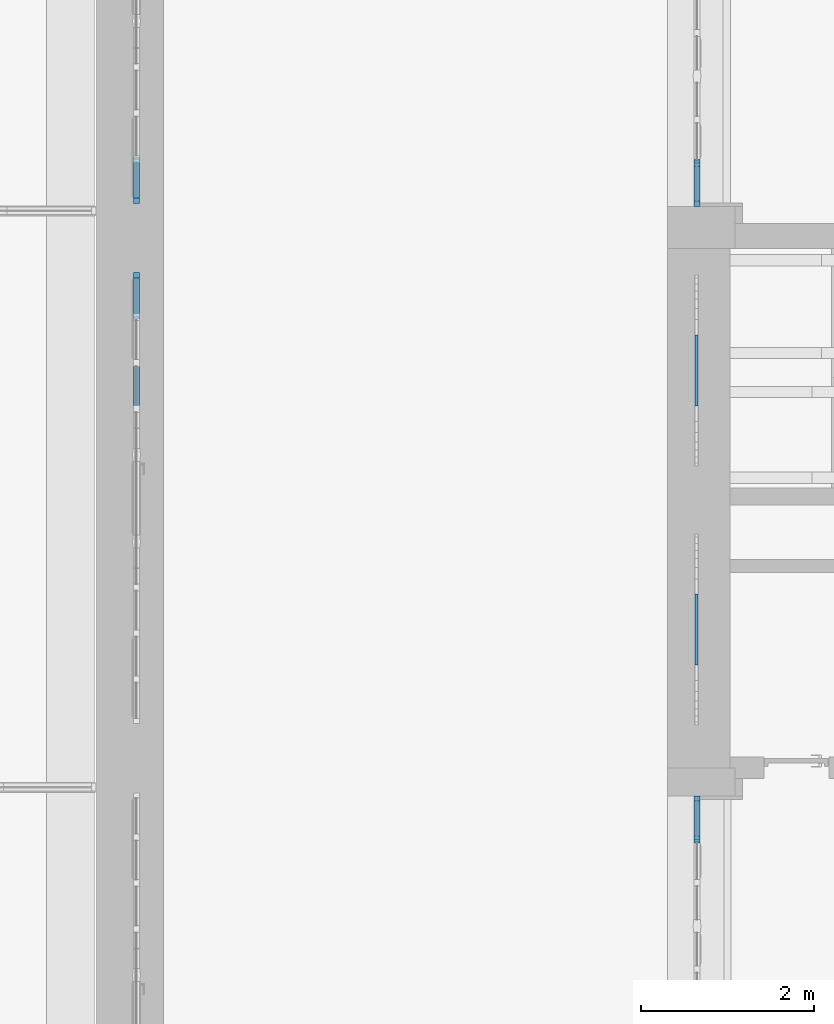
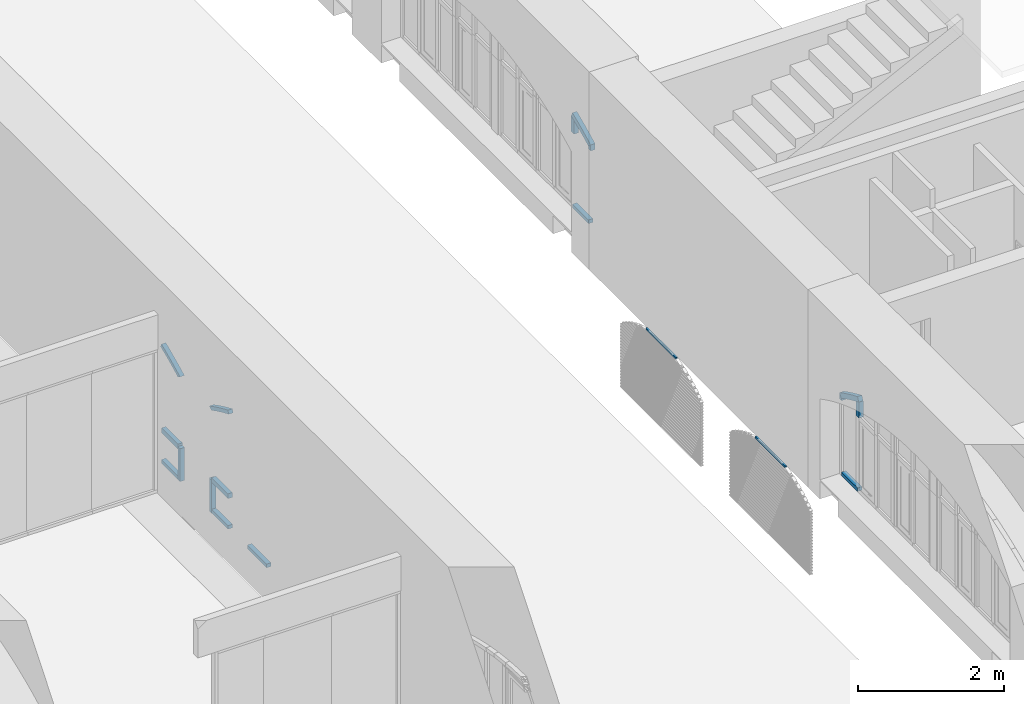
# One storey, part 33 of 88: 19 members, 6 elements without a shape of their own.
"""IFC2X3 building model written with IfcOpenShell, lengths in millimetres."""

from ifc_helpers import new_model, entity, si_unit, converted_unit, derived_unit, direction, frame, frame_2d, origin, origin_2d_with_axis, place, context, subcontext, project, spatial, polyline, circle_curve, parameter, trimmed, segment, composite_curve, rectangle, outline, extrude, source, transform, mapped, material, type_object, type_shapes, element, aggregate, save


model = new_model("IFC2X3")

# Units and contexts
model_context = context("Model", 3, precision=0.01, world=origin(), true_north=direction((6.123031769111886e-17, 1.0)))
body_context = subcontext(model_context, "Body", "Model", "MODEL_VIEW")
ifc_project = project(units=[si_unit("LENGTHUNIT", "METRE", prefix="MILLI"), si_unit("AREAUNIT", "SQUARE_METRE"), si_unit("VOLUMEUNIT", "CUBIC_METRE"), converted_unit("PLANEANGLEUNIT", "DEGREE", entity("IfcPlaneAngleMeasure", 0.017453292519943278), si_unit("PLANEANGLEUNIT", "RADIAN"), dimensions=[0, 0, 0, 0, 0, 0, 0]), si_unit("MASSUNIT", "GRAM", prefix="KILO"), derived_unit("MASSDENSITYUNIT", [(si_unit("MASSUNIT", "GRAM", prefix="KILO"), 1), (si_unit("LENGTHUNIT", "METRE"), -3)]), derived_unit("IONCONCENTRATIONUNIT", [(si_unit("MASSUNIT", "GRAM", prefix="KILO"), 1), (si_unit("LENGTHUNIT", "METRE"), -3)]), derived_unit("MOMENTOFINERTIAUNIT", [(si_unit("LENGTHUNIT", "METRE"), 4)]), si_unit("TIMEUNIT", "SECOND"), si_unit("FREQUENCYUNIT", "HERTZ"), si_unit("THERMODYNAMICTEMPERATUREUNIT", "DEGREE_CELSIUS"), derived_unit("THERMALTRANSMITTANCEUNIT", [(si_unit("MASSUNIT", "GRAM", prefix="KILO"), 1), (si_unit("THERMODYNAMICTEMPERATUREUNIT", "KELVIN"), -1), (si_unit("TIMEUNIT", "SECOND"), -3)]), derived_unit("THERMALCONDUCTANCEUNIT", [(si_unit("MASSUNIT", "GRAM", prefix="KILO"), 1), (si_unit("THERMODYNAMICTEMPERATUREUNIT", "KELVIN"), -1), (si_unit("TIMEUNIT", "SECOND"), -3), (si_unit("LENGTHUNIT", "METRE"), 1)]), derived_unit("VOLUMETRICFLOWRATEUNIT", [(si_unit("LENGTHUNIT", "METRE", prefix="DECI"), 3), (si_unit("TIMEUNIT", "SECOND"), -1)]), derived_unit("MASSFLOWRATEUNIT", [(si_unit("MASSUNIT", "GRAM", prefix="KILO"), 1), (si_unit("TIMEUNIT", "SECOND"), -1)]), derived_unit("ROTATIONALFREQUENCYUNIT", [(si_unit("TIMEUNIT", "SECOND"), -1)]), si_unit("ELECTRICCURRENTUNIT", "AMPERE"), si_unit("ELECTRICVOLTAGEUNIT", "VOLT"), si_unit("POWERUNIT", "WATT"), si_unit("FORCEUNIT", "NEWTON", prefix="KILO"), si_unit("ILLUMINANCEUNIT", "LUX"), si_unit("LUMINOUSFLUXUNIT", "LUMEN"), si_unit("LUMINOUSINTENSITYUNIT", "CANDELA"), si_unit("ENERGYUNIT", "JOULE"), derived_unit("USERDEFINED", [(si_unit("MASSUNIT", "GRAM", prefix="KILO"), -1), (si_unit("LENGTHUNIT", "METRE"), -2), (si_unit("TIMEUNIT", "SECOND"), 3), (si_unit("LUMINOUSFLUXUNIT", "LUMEN"), 1)]), derived_unit("USERDEFINED", [(si_unit("MASSUNIT", "GRAM", prefix="KILO"), 1), (si_unit("TIMEUNIT", "SECOND"), -3), (si_unit("LENGTHUNIT", "METRE"), 3), (si_unit("ELECTRICCURRENTUNIT", "AMPERE"), -2)]), derived_unit("SOUNDPOWERUNIT", [(si_unit("MASSUNIT", "GRAM", prefix="KILO"), 1), (si_unit("TIMEUNIT", "SECOND"), -3), (si_unit("LENGTHUNIT", "METRE"), 2)]), derived_unit("SOUNDPRESSUREUNIT", [(si_unit("MASSUNIT", "GRAM", prefix="KILO"), 1), (si_unit("LENGTHUNIT", "METRE"), -1), (si_unit("TIMEUNIT", "SECOND"), -2)]), derived_unit("LINEARVELOCITYUNIT", [(si_unit("LENGTHUNIT", "METRE"), 1), (si_unit("TIMEUNIT", "SECOND"), -1)]), si_unit("PRESSUREUNIT", "PASCAL"), derived_unit("USERDEFINED", [(si_unit("MASSUNIT", "GRAM", prefix="KILO"), 1), (si_unit("LENGTHUNIT", "METRE"), -2), (si_unit("TIMEUNIT", "SECOND"), -2)]), derived_unit("LINEARFORCEUNIT", [(si_unit("MASSUNIT", "GRAM", prefix="KILO"), 1), (si_unit("TIMEUNIT", "SECOND"), -2)]), derived_unit("PLANARFORCEUNIT", [(si_unit("MASSUNIT", "GRAM", prefix="KILO"), 1), (si_unit("LENGTHUNIT", "METRE"), -1), (si_unit("TIMEUNIT", "SECOND"), -2)]), derived_unit("SPECIFICHEATCAPACITYUNIT", [(si_unit("THERMODYNAMICTEMPERATUREUNIT", "KELVIN"), -1), (si_unit("LENGTHUNIT", "METRE"), 2), (si_unit("TIMEUNIT", "SECOND"), -2)]), derived_unit("HEATFLUXDENSITYUNIT", [(si_unit("MASSUNIT", "GRAM", prefix="KILO"), 1), (si_unit("TIMEUNIT", "SECOND"), -3)]), derived_unit("HEATINGVALUEUNIT", [(si_unit("LENGTHUNIT", "METRE"), 2), (si_unit("TIMEUNIT", "SECOND"), -2)]), derived_unit("VAPORPERMEABILITYUNIT", [(si_unit("LENGTHUNIT", "METRE"), -1), (si_unit("TIMEUNIT", "SECOND"), 1)]), derived_unit("DYNAMICVISCOSITYUNIT", [(si_unit("MASSUNIT", "GRAM", prefix="KILO"), 1), (si_unit("TIMEUNIT", "SECOND"), -1), (si_unit("LENGTHUNIT", "METRE"), -1)]), derived_unit("THERMALEXPANSIONCOEFFICIENTUNIT", [(si_unit("THERMODYNAMICTEMPERATUREUNIT", "KELVIN"), -1)]), derived_unit("MODULUSOFELASTICITYUNIT", [(si_unit("MASSUNIT", "GRAM", prefix="KILO"), 1), (si_unit("LENGTHUNIT", "METRE"), -1), (si_unit("TIMEUNIT", "SECOND"), -2)]), derived_unit("ISOTHERMALMOISTURECAPACITYUNIT", [(si_unit("MASSUNIT", "GRAM", prefix="KILO"), -1), (si_unit("LENGTHUNIT", "METRE"), 3)]), derived_unit("MOISTUREDIFFUSIVITYUNIT", [(si_unit("TIMEUNIT", "SECOND"), -1), (si_unit("LENGTHUNIT", "METRE"), 2)]), derived_unit("MASSPERLENGTHUNIT", [(si_unit("MASSUNIT", "GRAM", prefix="KILO"), 1), (si_unit("LENGTHUNIT", "METRE"), -1)]), derived_unit("THERMALRESISTANCEUNIT", [(si_unit("MASSUNIT", "GRAM", prefix="KILO"), -1), (si_unit("TIMEUNIT", "SECOND"), 3), (si_unit("THERMODYNAMICTEMPERATUREUNIT", "KELVIN"), 1)]), derived_unit("ACCELERATIONUNIT", [(si_unit("LENGTHUNIT", "METRE"), 1), (si_unit("TIMEUNIT", "SECOND"), -2)]), derived_unit("ANGULARVELOCITYUNIT", [(si_unit("TIMEUNIT", "SECOND"), -1), (si_unit("PLANEANGLEUNIT", "RADIAN"), 1)]), derived_unit("LINEARSTIFFNESSUNIT", [(si_unit("MASSUNIT", "GRAM", prefix="KILO"), 1), (si_unit("TIMEUNIT", "SECOND"), -2)]), derived_unit("WARPINGCONSTANTUNIT", [(si_unit("LENGTHUNIT", "METRE"), 6)]), derived_unit("LINEARMOMENTUNIT", [(si_unit("MASSUNIT", "GRAM", prefix="KILO"), 1), (si_unit("LENGTHUNIT", "METRE"), 1), (si_unit("TIMEUNIT", "SECOND"), -2)]), derived_unit("TORQUEUNIT", [(si_unit("MASSUNIT", "GRAM", prefix="KILO"), 1), (si_unit("LENGTHUNIT", "METRE"), 2), (si_unit("TIMEUNIT", "SECOND"), -2)])], contexts=[model_context])

# Site, building, storey
site_placement = place(None, origin())
site = spatial("IfcSite", under=ifc_project, at=site_placement, Name="Default", CompositionType="ELEMENT")
building_placement = place(site_placement, origin())
building = spatial("IfcBuilding", under=site, at=building_placement, Name="Eesti Rahvusraamatukogu hoone renoveerimise projekteerimistööd", CompositionType="ELEMENT")
storey_placement = place(building_placement, origin())
storey = spatial("IfcBuildingStorey", under=building, at=storey_placement, Name="1. korrus", CompositionType="ELEMENT", Elevation=0.0)

# Curtain wall, member
curtain_wall_type_1 = type_object("IfcCurtainWallType", Name="Curtain Wall:ol. olev MK vent. rest", PredefinedType="NOTDEFINED")
curtain_wall_1_placement = place(storey_placement, origin())
curtain_wall_1 = element("IfcCurtainWall", 1, at=curtain_wall_1_placement, inside=storey, type_object=curtain_wall_type_1, Name="Curtain Wall:ol. olev MK vent. rest", ObjectType="Curtain Wall:ol. olev MK vent. rest")
ifc_material_1 = material(Name="<Unnamed>")
member_type_1 = type_object("IfcMemberType", Name="Rectangular Mullion:30mm Square", PredefinedType="MULLION", material=ifc_material_1)
shared_shape_1 = source(origin(), body_context, "Body", "SweptSolid", [
    extrude(rectangle(XDim=30.0, YDim=30.0, at=origin_2d_with_axis()), frame((0.0, 0.0, -821.5973366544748), z_axis=(0.0, 0.0, 1.0), x_axis=(-1.0, 0.0, 0.0)), (0.0, 0.0, 1.0), 821.5973366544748),
])
type_shapes(member_type_1, [shared_shape_1])
member_1_placement = place(curtain_wall_1_placement, frame((-36445.0, 25498.17852211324, 1155.0), z_axis=(0.0, -1.0, 0.0), x_axis=(0.0, 0.0, 1.0)))
member_1 = element("IfcMember", 2, at=member_1_placement, type_object=member_type_1, material=ifc_material_1, Name="Rectangular Mullion:30mm Square", ObjectType="Rectangular Mullion:30mm Square", context=body_context, shape_type="MappedRepresentation", body=[
    mapped(shared_shape_1, transform((0.0, 0.0, 0.0), scale=1.0)),
])
aggregate(curtain_wall_1, [member_1])

curtain_wall_2_placement = place(storey_placement, origin())
curtain_wall_2 = element("IfcCurtainWall", 3, at=curtain_wall_2_placement, inside=storey, type_object=curtain_wall_type_1, Name="Curtain Wall:ol. olev MK vent. rest", ObjectType="Curtain Wall:ol. olev MK vent. rest")
member_2_placement = place(curtain_wall_2_placement, frame((-36445.0, 28486.812863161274, 1155.0), z_axis=(0.0, -1.0, 0.0), x_axis=(0.0, 0.0, 1.0)))
member_2 = element("IfcMember", 4, at=member_2_placement, type_object=member_type_1, material=ifc_material_1, Name="Rectangular Mullion:30mm Square", ObjectType="Rectangular Mullion:30mm Square", context=body_context, shape_type="MappedRepresentation", body=[
    mapped(shared_shape_1, transform((0.0, 0.0, 0.0), scale=1.0)),
])
aggregate(curtain_wall_2, [member_2])

curtain_wall_type_2 = type_object("IfcCurtainWallType", Name="Curtain Wall:Ak-02", PredefinedType="NOTDEFINED")
curtain_wall_3_placement = place(storey_placement, origin())
curtain_wall_3 = element("IfcCurtainWall", 5, at=curtain_wall_3_placement, inside=storey, type_object=curtain_wall_type_2, Name="Curtain Wall:Ak-02", ObjectType="Curtain Wall:Ak-02")
ifc_material_2 = material(Name="LUMION_dark steel window frames")
member_type_2 = type_object("IfcMemberType", Name="Rectangular Mullion:NEW 80x70mm", PredefinedType="MULLION", material=ifc_material_2)
shared_shape_2 = source(origin(), body_context, "Body", "SweptSolid", [
    extrude(outline(composite_curve([segment(trimmed(circle_curve(frame_2d((5127.857298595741, 1916.0902897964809), x_axis=(-0.9185017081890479, -0.39541701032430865)), 5520.7156800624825), [parameter(354.2613575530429)], [parameter(359.99999999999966)], True, "PARAMETER"), True, "CONTINUOUS"), segment(polyline([(57.07051603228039, -266.8945992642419), (130.55065268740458, -235.2612384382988)]), True, "CONTINUOUS"), segment(trimmed(circle_curve(frame_2d((5127.857298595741, 1916.0902897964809), x_axis=(-0.9185017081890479, -0.39541701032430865)), 5440.7156800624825), [parameter(354.52804849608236)], [parameter(359.99999999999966)], True, "PARAMETER"), False, "CONTINUOUS"), segment(polyline([(-51.82617782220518, 251.07791885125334), (-135.79499089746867, 251.0779188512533)]), True, "CONTINUOUS")], self_intersect=False)), frame((-53.11529804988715, -35.0, -267.709798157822), z_axis=(0.0, -1.0, 0.0), x_axis=(-0.918501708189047, 0.0, 0.3954170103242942)), (0.0, 0.0, -1.0), 69.99999999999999),
])
type_shapes(member_type_2, [shared_shape_2])
member_3_placement = place(curtain_wall_3_placement, frame((-36440.0, 23490.0, 3555.568744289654), z_axis=(0.0, -0.9248280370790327, 0.3803854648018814), x_axis=(0.0, 0.3803854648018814, 0.9248280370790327)))
member_3 = element("IfcMember", 6, at=member_3_placement, type_object=member_type_2, material=ifc_material_2, Name="Rectangular Mullion:NEW 80x70mm", ObjectType="Rectangular Mullion:NEW 80x70mm", context=body_context, shape_type="MappedRepresentation", body=[
    mapped(shared_shape_2, transform((0.0, 0.0, 0.0), scale=1.0)),
])

curtain_wall_4_placement = place(storey_placement, origin())
curtain_wall_4 = element("IfcCurtainWall", 7, at=curtain_wall_4_placement, inside=storey, type_object=curtain_wall_type_2, Name="Curtain Wall:Ak-02", ObjectType="Curtain Wall:Ak-02")
member_type_3 = type_object("IfcMemberType", Name="Rectangular Mullion:NEW 80x70mm", PredefinedType="MULLION", material=ifc_material_2)
shared_shape_3 = source(origin(), body_context, "Body", "SweptSolid", [
    extrude(outline(composite_curve([segment(polyline([(-53.11529804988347, -267.70979815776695), (26.884701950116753, -267.709798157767)]), True, "CONTINUOUS"), segment(trimmed(circle_curve(frame_2d((5467.600382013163, -267.70979815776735), x_axis=(-0.9949883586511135, 0.0999908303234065)), 5440.7156800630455), [parameter(0.26669094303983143)], [parameter(5.738642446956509)], True, "PARAMETER"), False, "CONTINUOUS"), segment(polyline([(51.67804717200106, 251.10844964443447), (-25.447451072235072, 284.3111466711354)]), True, "CONTINUOUS"), segment(trimmed(circle_curve(frame_2d((5467.600382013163, -267.70979815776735), x_axis=(-0.9949883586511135, 0.0999908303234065)), 5520.7156800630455), [parameter(3.5622212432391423e-13)], [parameter(5.738642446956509)], True, "PARAMETER"), True, "CONTINUOUS")], self_intersect=False)), frame((-53.748425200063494, -35.0, -280.34176941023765), z_axis=(0.0, 1.0, 0.0), x_axis=(-0.9949883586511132, 0.0, 0.0999908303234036)), (0.0, 0.0, 1.0), 69.99999999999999),
])
type_shapes(member_type_3, [shared_shape_3])
member_4_placement = place(curtain_wall_4_placement, frame((-36440.0, 30790.0, 3330.0), z_axis=(0.0, -0.8821580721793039, -0.47095343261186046), x_axis=(0.0, -0.47095343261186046, 0.8821580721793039)))
member_4 = element("IfcMember", 8, at=member_4_placement, type_object=member_type_3, material=ifc_material_2, Name="Rectangular Mullion:NEW 80x70mm", ObjectType="Rectangular Mullion:NEW 80x70mm", context=body_context, shape_type="MappedRepresentation", body=[
    mapped(shared_shape_3, transform((0.0, 0.0, 0.0), scale=1.0)),
])

# Member
member_type_4 = type_object("IfcMemberType", Name="Rectangular Mullion:NEW 80x70mm", PredefinedType="MULLION", material=ifc_material_2)
shared_shape_4 = source(origin(), body_context, "Body", "SweptSolid", [
    extrude(outline(composite_curve([segment(polyline([(-151.82490852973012, -33.91383256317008), (113.68279751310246, -33.91383256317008)]), True, "CONTINUOUS"), segment(trimmed(circle_curve(frame_2d((-4921.968809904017, -2093.9138325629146), x_axis=(0.9570819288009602, 0.2898174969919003)), 5440.715680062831), [parameter(5.401610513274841)], [parameter(5.510531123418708)], True, "PARAMETER"), True, "CONTINUOUS"), segment(trimmed(circle_curve(frame_2d((-4921.968809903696, -2093.9138325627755), x_axis=(0.9248280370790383, 0.38038546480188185)), 5440.7156800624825), [parameter(0.0)], [parameter(0.8043376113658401)], True, "PARAMETER"), True, "CONTINUOUS"), segment(polyline([(80.20942675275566, 46.08616743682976), (-151.82490852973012, 46.08616743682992)]), True, "CONTINUOUS"), segment(polyline([(-151.82490852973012, 46.08616743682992), (-151.82490852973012, -33.91383256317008)]), True, "CONTINUOUS")], self_intersect=False)), frame((6.086167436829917, -35.0, -151.82490852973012), z_axis=(0.0, 1.0, 0.0), x_axis=(0.0, 0.0, -1.0)), (0.0, 0.0, 1.0), 69.99999999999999),
])
type_shapes(member_type_4, [shared_shape_4])
member_5_placement = place(curtain_wall_3_placement, frame((-36440.0, 23490.0, 3220.0), z_axis=(0.0, 0.0, -1.0), x_axis=(0.0, -1.0, 0.0)))
member_5 = element("IfcMember", 9, at=member_5_placement, type_object=member_type_4, material=ifc_material_2, Name="Rectangular Mullion:NEW 80x70mm", ObjectType="Rectangular Mullion:NEW 80x70mm", context=body_context, shape_type="MappedRepresentation", body=[
    mapped(shared_shape_4, transform((0.0, 0.0, 0.0), scale=1.0)),
])

member_type_5 = type_object("IfcMemberType", Name="Rectangular Mullion:NEW 80x70mm", PredefinedType="MULLION", material=ifc_material_2)
shared_shape_5 = source(origin(), body_context, "Body", "SweptSolid", [
    extrude(outline(composite_curve([segment(polyline([(-151.8249085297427, -46.086167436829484), (80.20942675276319, -46.086167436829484)]), True, "CONTINUOUS"), segment(trimmed(circle_curve(frame_2d((-4921.968809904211, 2093.913832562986), x_axis=(0.8821580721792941, -0.47095343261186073)), 5440.7156800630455), [parameter(4.934304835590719)], [parameter(5.738642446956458)], True, "PARAMETER"), True, "CONTINUOUS"), segment(trimmed(circle_curve(frame_2d((-4921.968809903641, 2093.9138325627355), x_axis=(0.9248280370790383, -0.3803854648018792)), 5440.715680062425), [parameter(0.0)], [parameter(0.1089206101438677)], True, "PARAMETER"), True, "CONTINUOUS"), segment(polyline([(113.68279751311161, 33.91383256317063), (-151.8249085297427, 33.913832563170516)]), True, "CONTINUOUS"), segment(polyline([(-151.8249085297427, 33.913832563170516), (-151.8249085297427, -46.086167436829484)]), True, "CONTINUOUS")], self_intersect=False)), frame((-6.086167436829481, -35.0, -151.8249085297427), z_axis=(0.0, 1.0, 0.0), x_axis=(0.0, 0.0, -1.0)), (0.0, 0.0, 1.0), 70.00000000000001),
])
type_shapes(member_type_5, [shared_shape_5])
member_6_placement = place(curtain_wall_4_placement, frame((-36440.0, 31290.0, 3230.0), z_axis=(0.0, 0.0, -1.0), x_axis=(0.0, -1.0, 0.0)))
member_6 = element("IfcMember", 10, at=member_6_placement, type_object=member_type_5, material=ifc_material_2, Name="Rectangular Mullion:NEW 80x70mm", ObjectType="Rectangular Mullion:NEW 80x70mm", context=body_context, shape_type="MappedRepresentation", body=[
    mapped(shared_shape_5, transform((0.0, 0.0, 0.0), scale=1.0)),
])

member_type_6 = type_object("IfcMemberType", Name="Rectangular Mullion:NEW 60x70mm", PredefinedType="MULLION", material=ifc_material_2)
shared_shape_6 = source(origin(), body_context, "Body", "SweptSolid", [
    extrude(rectangle(XDim=60.0, YDim=70.0, at=frame_2d((0.0, 3.552713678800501e-15), x_axis=(1.0, 0.0))), frame((-30.0, 0.0, -440.0), z_axis=(0.0, 0.0, 1.0), x_axis=(-1.0, 0.0, 0.0)), (0.0, 0.0, 1.0), 439.9999999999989),
])
type_shapes(member_type_6, [shared_shape_6])
member_7_placement = place(curtain_wall_4_placement, frame((-36440.0, 31290.0, 1980.0), z_axis=(0.0, 1.0, 0.0), x_axis=(0.0, 0.0, -1.0)))
member_7 = element("IfcMember", 11, at=member_7_placement, type_object=member_type_6, material=ifc_material_2, Name="Rectangular Mullion:NEW 60x70mm", ObjectType="Rectangular Mullion:NEW 60x70mm", context=body_context, shape_type="MappedRepresentation", body=[
    mapped(shared_shape_6, transform((0.0, 0.0, 0.0), scale=1.0)),
])

member_type_7 = type_object("IfcMemberType", Name="Rectangular Mullion:NEW 60x70mm", PredefinedType="MULLION", material=ifc_material_2)
shared_shape_7 = source(origin(), body_context, "Body", "SweptSolid", [
    extrude(rectangle(XDim=60.0, YDim=70.0, at=frame_2d((0.0, 3.552713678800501e-15), x_axis=(1.0, 0.0))), frame((-30.0, 0.0, -440.0), z_axis=(0.0, 0.0, 1.0), x_axis=(-1.0, 0.0, 0.0)), (0.0, 0.0, 1.0), 439.9999999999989),
])
type_shapes(member_type_7, [shared_shape_7])
member_8_placement = place(curtain_wall_3_placement, frame((-36440.0, 23930.0, 1970.0), z_axis=(0.0, 1.0, 0.0), x_axis=(0.0, 0.0, -1.0)))
member_8 = element("IfcMember", 12, at=member_8_placement, type_object=member_type_7, material=ifc_material_2, Name="Rectangular Mullion:NEW 60x70mm", ObjectType="Rectangular Mullion:NEW 60x70mm", context=body_context, shape_type="MappedRepresentation", body=[
    mapped(shared_shape_7, transform((0.0, 0.0, 0.0), scale=1.0)),
])

member_type_8 = type_object("IfcMemberType", Name="Rectangular Mullion:NEW 60x70mm", PredefinedType="MULLION", material=ifc_material_2)
shared_shape_8 = source(origin(), body_context, "Body", "SweptSolid", [
    extrude(outline(polyline([(-35.33630318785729, -30.0), (64.6636968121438, -30.0), (6.008909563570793, 30.0), (-35.33630318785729, 30.0), (-35.33630318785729, -30.0)])), frame((-30.0, -35.0, -35.33630318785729), z_axis=(0.0, 1.0, 0.0), x_axis=(0.0, 0.0, -1.0)), (0.0, 0.0, 1.0), 69.99999999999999),
])
type_shapes(member_type_8, [shared_shape_8])
member_9_placement = place(curtain_wall_4_placement, frame((-36440.0, 30790.0, 3230.0), z_axis=(0.0, 0.0, -1.0), x_axis=(0.0, -1.0, 0.0)))
member_9 = element("IfcMember", 13, at=member_9_placement, type_object=member_type_8, material=ifc_material_2, Name="Rectangular Mullion:NEW 60x70mm", ObjectType="Rectangular Mullion:NEW 60x70mm", context=body_context, shape_type="MappedRepresentation", body=[
    mapped(shared_shape_8, transform((0.0, 0.0, 0.0), scale=1.0)),
])

aggregate(curtain_wall_4, [member_4, member_6, member_7, member_9])

member_type_9 = type_object("IfcMemberType", Name="Rectangular Mullion:NEW 60x70mm", PredefinedType="MULLION", material=ifc_material_2)
shared_shape_9 = source(origin(), body_context, "Body", "SweptSolid", [
    extrude(outline(polyline([(-64.66369681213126, -30.0), (35.336303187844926, -30.0), (35.336303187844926, 30.0), (-6.008909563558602, 30.0), (-64.66369681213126, -30.0)])), frame((-30.0, -35.0, -64.66369681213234), z_axis=(0.0, 1.0, 0.0), x_axis=(0.0, 0.0, -1.0)), (0.0, 0.0, 1.0), 69.99999999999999),
])
type_shapes(member_type_9, [shared_shape_9])
member_10_placement = place(curtain_wall_3_placement, frame((-36440.0, 23990.0, 3320.0), z_axis=(0.0, 0.0, 1.0), x_axis=(0.0, 1.0, 0.0)))
member_10 = element("IfcMember", 14, at=member_10_placement, type_object=member_type_9, material=ifc_material_2, Name="Rectangular Mullion:NEW 60x70mm", ObjectType="Rectangular Mullion:NEW 60x70mm", context=body_context, shape_type="MappedRepresentation", body=[
    mapped(shared_shape_9, transform((0.0, 0.0, 0.0), scale=1.0)),
])

aggregate(curtain_wall_3, [member_3, member_5, member_8, member_10])

# Curtain wall, member
curtain_wall_type_3 = type_object("IfcCurtainWallType", Name="Curtain Wall:Ak-05", PredefinedType="NOTDEFINED")
curtain_wall_5_placement = place(storey_placement, origin())
curtain_wall_5 = element("IfcCurtainWall", 15, at=curtain_wall_5_placement, inside=storey, type_object=curtain_wall_type_3, Name="Curtain Wall:Ak-05", ObjectType="Curtain Wall:Ak-05")
member_type_10 = type_object("IfcMemberType", Name="Rectangular Mullion:NEW 60x70mm", PredefinedType="MULLION", material=ifc_material_2)
shared_shape_10 = source(origin(), body_context, "Body", "SweptSolid", [
    extrude(outline(composite_curve([segment(trimmed(circle_curve(frame_2d((4549.812785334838, 3066.2072493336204), x_axis=(-0.8006634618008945, -0.5991143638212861)), 5523.280566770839), [parameter(354.15250498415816)], [parameter(359.99999999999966)], True, "PARAMETER"), True, "CONTINUOUS"), segment(polyline([(127.52384624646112, -242.86947363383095), (175.56365395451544, -206.92261180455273)]), True, "CONTINUOUS"), segment(trimmed(circle_curve(frame_2d((4549.812785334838, 3066.2072493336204), x_axis=(-0.8006634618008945, -0.5991143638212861)), 5463.280566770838), [parameter(354.53073311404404)], [parameter(359.99999999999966)], True, "PARAMETER"), False, "CONTINUOUS"), segment(polyline([(-116.49037438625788, 224.89604271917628), (-186.59712581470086, 224.89604271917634)]), True, "CONTINUOUS")], self_intersect=False)), frame((-43.402905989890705, -35.0, -270.85808154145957), z_axis=(0.0, -1.0, 0.0), x_axis=(-0.800663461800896, 0.0, 0.5991143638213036)), (0.0, 0.0, -1.0), 69.99999999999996),
])
type_shapes(member_type_10, [shared_shape_10])
member_11_placement = place(curtain_wall_5_placement, frame((-42905.0, 29515.0, 1939.3047106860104), z_axis=(0.0, -0.9256428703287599, 0.3783983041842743), x_axis=(0.0, 0.3783983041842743, 0.9256428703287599)))
member_11 = element("IfcMember", 16, at=member_11_placement, type_object=member_type_10, material=ifc_material_2, Name="Rectangular Mullion:NEW 60x70mm", ObjectType="Rectangular Mullion:NEW 60x70mm", context=body_context, shape_type="MappedRepresentation", body=[
    mapped(shared_shape_10, transform((0.0, 0.0, 0.0), scale=1.0)),
])

# Curtain wall, members
curtain_wall_6_placement = place(storey_placement, origin())
curtain_wall_6 = element("IfcCurtainWall", 17, at=curtain_wall_6_placement, inside=storey, type_object=curtain_wall_type_3, Name="Curtain Wall:Ak-05", ObjectType="Curtain Wall:Ak-05")
member_type_11 = type_object("IfcMemberType", Name="Rectangular Mullion:NEW 60x70mm", PredefinedType="MULLION", material=ifc_material_2)
shared_shape_11 = source(origin(), body_context, "Body", "SweptSolid", [
    extrude(outline(composite_curve([segment(polyline([(-43.402905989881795, -270.8580815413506), (16.59709401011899, -270.85808154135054)]), True, "CONTINUOUS"), segment(trimmed(circle_curve(frame_2d((5479.877660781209, -270.8580815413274), x_axis=(-0.9947965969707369, 0.10188096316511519)), 5463.280566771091), [parameter(0.37822812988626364)], [parameter(5.847495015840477)], True, "PARAMETER"), False, "CONTINUOUS"), segment(polyline([(41.46886313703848, 249.85710065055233), (-14.66305115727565, 291.85906243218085)]), True, "CONTINUOUS"), segment(trimmed(circle_curve(frame_2d((5479.877660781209, -270.8580815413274), x_axis=(-0.9947965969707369, 0.10188096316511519)), 5523.280566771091), [parameter(3.5622212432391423e-13)], [parameter(5.847495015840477)], True, "PARAMETER"), True, "CONTINUOUS")], self_intersect=False)), frame((-44.32163578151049, -35.0, -288.84651632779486), z_axis=(0.0, 1.0, 0.0), x_axis=(-0.9947965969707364, 0.0, 0.10188096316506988)), (0.0, 0.0, 1.0), 69.99999999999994),
])
type_shapes(member_type_11, [shared_shape_11])
member_12_placement = place(curtain_wall_6_placement, frame((-42905.0, 30825.0, 1699.7706559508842), z_axis=(0.0, -0.8822747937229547, -0.4707347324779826), x_axis=(0.0, -0.4707347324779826, 0.8822747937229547)))
member_12 = element("IfcMember", 18, at=member_12_placement, type_object=member_type_11, material=ifc_material_2, Name="Rectangular Mullion:NEW 60x70mm", ObjectType="Rectangular Mullion:NEW 60x70mm", context=body_context, shape_type="MappedRepresentation", body=[
    mapped(shared_shape_11, transform((0.0, 0.0, 0.0), scale=1.0)),
])
member_type_12 = type_object("IfcMemberType", Name="Rectangular Mullion:NEW 80x70mm", PredefinedType="MULLION", material=ifc_material_2)
shared_shape_12 = source(origin(), body_context, "Body", "SweptSolid", [
    extrude(rectangle(XDim=80.0, YDim=70.0, at=frame_2d((0.0, -3.552713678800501e-15), x_axis=(1.0, 0.0))), frame((0.0, 0.0, -450.0), z_axis=(0.0, 0.0, 1.0), x_axis=(-1.0, 0.0, 0.0)), (0.0, 0.0, 1.0), 449.9999999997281),
])
type_shapes(member_type_12, [shared_shape_12])
member_13_placement = place(curtain_wall_6_placement, frame((-42905.0, 30885.0, 500.0), z_axis=(0.0, -1.0, 0.0), x_axis=(0.0, 0.0, 1.0)))
member_13 = element("IfcMember", 19, at=member_13_placement, type_object=member_type_12, material=ifc_material_2, Name="Rectangular Mullion:NEW 80x70mm", ObjectType="Rectangular Mullion:NEW 80x70mm", context=body_context, shape_type="MappedRepresentation", body=[
    mapped(shared_shape_12, transform((0.0, 0.0, 0.0), scale=1.0)),
])

# Member
member_type_13 = type_object("IfcMemberType", Name="Rectangular Mullion:NEW 80x70mm", PredefinedType="MULLION", material=ifc_material_2)
shared_shape_13 = source(origin(), body_context, "Body", "SweptSolid", [
    extrude(rectangle(XDim=80.0, YDim=70.0, at=frame_2d((0.0, -3.552713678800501e-15), x_axis=(1.0, 0.0))), frame((0.0, 0.0, -450.0), z_axis=(0.0, 0.0, 1.0), x_axis=(-1.0, 0.0, 0.0)), (0.0, 0.0, 1.0), 449.9999999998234),
])
type_shapes(member_type_13, [shared_shape_13])
member_14_placement = place(curtain_wall_5_placement, frame((-42905.0, 29515.0, 500.0), z_axis=(0.0, -1.0, 0.0), x_axis=(0.0, 0.0, 1.0)))
member_14 = element("IfcMember", 20, at=member_14_placement, type_object=member_type_13, material=ifc_material_2, Name="Rectangular Mullion:NEW 80x70mm", ObjectType="Rectangular Mullion:NEW 80x70mm", context=body_context, shape_type="MappedRepresentation", body=[
    mapped(shared_shape_13, transform((0.0, 0.0, 0.0), scale=1.0)),
])

member_type_14 = type_object("IfcMemberType", Name="Rectangular Mullion:NEW 60x70mm", PredefinedType="MULLION", material=ifc_material_2)
shared_shape_14 = source(origin(), body_context, "Body", "SweptSolid", [
    extrude(rectangle(XDim=60.0, YDim=70.0, at=frame_2d((0.0, 3.552713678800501e-15), x_axis=(1.0, 0.0))), frame((-30.0, 0.0, -550.0), z_axis=(0.0, 0.0, 1.0), x_axis=(-1.0, 0.0, 0.0)), (0.0, 0.0, 1.0), 550.0000000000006),
])
type_shapes(member_type_14, [shared_shape_14])
member_15_placement = place(curtain_wall_6_placement, frame((-42905.0, 30825.0, -50.0), z_axis=(0.0, 0.0, -1.0), x_axis=(0.0, -1.0, 0.0)))
member_15 = element("IfcMember", 21, at=member_15_placement, type_object=member_type_14, material=ifc_material_2, Name="Rectangular Mullion:NEW 60x70mm", ObjectType="Rectangular Mullion:NEW 60x70mm", context=body_context, shape_type="MappedRepresentation", body=[
    mapped(shared_shape_14, transform((0.0, 0.0, 0.0), scale=1.0)),
])

member_type_15 = type_object("IfcMemberType", Name="Rectangular Mullion:NEW 60x70mm", PredefinedType="MULLION", material=ifc_material_2)
shared_shape_15 = source(origin(), body_context, "Body", "SweptSolid", [
    extrude(rectangle(XDim=60.0, YDim=70.0, at=frame_2d((0.0, 3.552713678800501e-15), x_axis=(1.0, 0.0))), frame((-30.0, 0.0, -550.0), z_axis=(0.0, 0.0, 1.0), x_axis=(-1.0, 0.0, 0.0)), (0.0, 0.0, 1.0), 550.0000000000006),
])
type_shapes(member_type_15, [shared_shape_15])
member_16_placement = place(curtain_wall_5_placement, frame((-42905.0, 30025.0, 500.0), z_axis=(0.0, 0.0, 1.0), x_axis=(0.0, 1.0, 0.0)))
member_16 = element("IfcMember", 22, at=member_16_placement, type_object=member_type_15, material=ifc_material_2, Name="Rectangular Mullion:NEW 60x70mm", ObjectType="Rectangular Mullion:NEW 60x70mm", context=body_context, shape_type="MappedRepresentation", body=[
    mapped(shared_shape_15, transform((0.0, 0.0, 0.0), scale=1.0)),
])

member_type_16 = type_object("IfcMemberType", Name="Rectangular Mullion:NEW 60x70mm", PredefinedType="MULLION", material=ifc_material_2)
shared_shape_16 = source(origin(), body_context, "Body", "SweptSolid", [
    extrude(rectangle(XDim=60.0, YDim=70.0, at=frame_2d((0.0, 3.552713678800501e-15), x_axis=(1.0, 0.0))), frame((-30.0, 0.0, -450.0), z_axis=(0.0, 0.0, 1.0), x_axis=(-1.0, 0.0, 0.0)), (0.0, 0.0, 1.0), 449.9999999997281),
])
type_shapes(member_type_16, [shared_shape_16])
member_17_placement = place(curtain_wall_6_placement, frame((-42905.0, 31335.0, -50.0), z_axis=(0.0, 1.0, 0.0), x_axis=(0.0, 0.0, -1.0)))
member_17 = element("IfcMember", 23, at=member_17_placement, type_object=member_type_16, material=ifc_material_2, Name="Rectangular Mullion:NEW 60x70mm", ObjectType="Rectangular Mullion:NEW 60x70mm", context=body_context, shape_type="MappedRepresentation", body=[
    mapped(shared_shape_16, transform((0.0, 0.0, 0.0), scale=1.0)),
])

aggregate(curtain_wall_6, [member_12, member_13, member_15, member_17])

member_type_17 = type_object("IfcMemberType", Name="Rectangular Mullion:NEW 60x70mm", PredefinedType="MULLION", material=ifc_material_2)
shared_shape_17 = source(origin(), body_context, "Body", "SweptSolid", [
    extrude(rectangle(XDim=60.0, YDim=70.0, at=frame_2d((0.0, 3.552713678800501e-15), x_axis=(1.0, 0.0))), frame((-30.0, 0.0, -530.0), z_axis=(0.0, 0.0, 1.0), x_axis=(-1.0, 0.0, 0.0)), (0.0, 0.0, 1.0), 530.0000000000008),
])
type_shapes(member_type_17, [shared_shape_17])
member_18_placement = place(curtain_wall_5_placement, frame((-42905.0, 28985.0, -50.0), z_axis=(0.0, 1.0, 0.0), x_axis=(0.0, 0.0, -1.0)))
member_18 = element("IfcMember", 24, at=member_18_placement, type_object=member_type_17, material=ifc_material_2, Name="Rectangular Mullion:NEW 60x70mm", ObjectType="Rectangular Mullion:NEW 60x70mm", context=body_context, shape_type="MappedRepresentation", body=[
    mapped(shared_shape_17, transform((0.0, 0.0, 0.0), scale=1.0)),
])

member_type_18 = type_object("IfcMemberType", Name="Rectangular Mullion:NEW 60x70mm", PredefinedType="MULLION", material=ifc_material_2)
shared_shape_18 = source(origin(), body_context, "Body", "SweptSolid", [
    extrude(rectangle(XDim=60.0, YDim=70.0, at=frame_2d((0.0, 3.552713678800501e-15), x_axis=(1.0, 0.0))), frame((-30.0, 0.0, -450.0), z_axis=(0.0, 0.0, 1.0), x_axis=(-1.0, 0.0, 0.0)), (0.0, 0.0, 1.0), 449.9999999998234),
])
type_shapes(member_type_18, [shared_shape_18])
member_19_placement = place(curtain_wall_5_placement, frame((-42905.0, 29965.0, -50.0), z_axis=(0.0, 1.0, 0.0), x_axis=(0.0, 0.0, -1.0)))
member_19 = element("IfcMember", 25, at=member_19_placement, type_object=member_type_18, material=ifc_material_2, Name="Rectangular Mullion:NEW 60x70mm", ObjectType="Rectangular Mullion:NEW 60x70mm", context=body_context, shape_type="MappedRepresentation", body=[
    mapped(shared_shape_18, transform((0.0, 0.0, 0.0), scale=1.0)),
])

aggregate(curtain_wall_5, [member_11, member_14, member_16, member_18, member_19])

save(model, "model.ifc")
